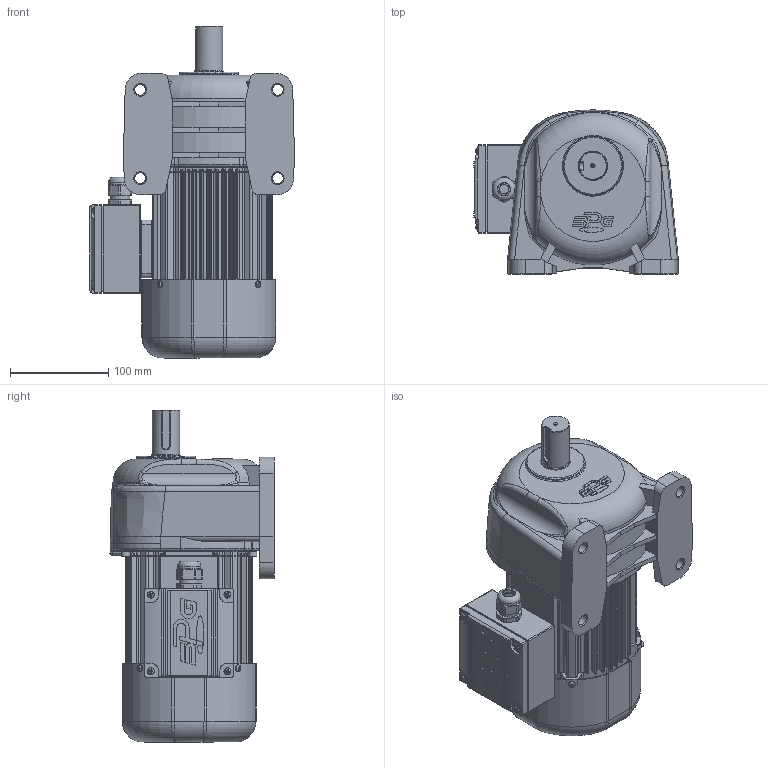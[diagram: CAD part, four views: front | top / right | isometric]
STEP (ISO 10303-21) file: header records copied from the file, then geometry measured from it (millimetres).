
FILE_DESCRIPTION(/* description */ (''),/* implementation_level */ '2;1');
FILE_NAME(/* name */ 'Z:\동력 3D 파일\PAL28-(100~200)-MC(D)020[ ]L_(3D).stp',/* time_stamp */ '2021-10-18T16:36:37+09:00',/* author */ ('jaebok'),/* organization */ (''),/* preprocessor_version */ 'ST-DEVELOPER v18.1',/* originating_system */ 'Autodesk Inventor 2022',/* authorisation */ '');
FILE_SCHEMA (('AUTOMOTIVE_DESIGN { 1 0 10303 214 3 1 1 }'));
Length unit declared in the file: millimetre
Products named in the file (1): 부품4
Bounding box: 208.5 x 166.97 x 338 mm (x, y, z)
Volume: 1915486.1 mm3; surface area: 595362.8 mm2
Topology: 3 solids, 34 shells, 3177 faces, 8042 edges, 4872 vertices
Faces by surface type: plane 1117, cylinder 919, bspline 653, torus 254, cone 172, sphere 62
Full cylindrical faces by diameter (mm): 1.5 x2, 2 x5, 3 x4, 3.242 x4, 3.25 x1, 3.3 x8, 3.6 x4, 3.8 x3, 4 x20, 4.2 x13, 4.917 x4, 5 x24, 5.5 x4, 5.8 x2, 5.9 x3, 6 x13, 6.4 x1, 6.5 x6, 7 x12, 7.9 x6, 8 x8, 8.5 x5, 8.7 x1, 10 x1, 11 x4, 12.5 x1, 15 x1, 16 x1, 16.2 x1, 19 x1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
Entity records: 126057 total; most frequent: CARTESIAN_POINT 50713, ORIENTED_EDGE 15686, DIRECTION 14330, EDGE_CURVE 7843, AXIS2_PLACEMENT_3D 5693, VERTEX_POINT 4865, EDGE_LOOP 3445, FACE_OUTER_BOUND 3177
